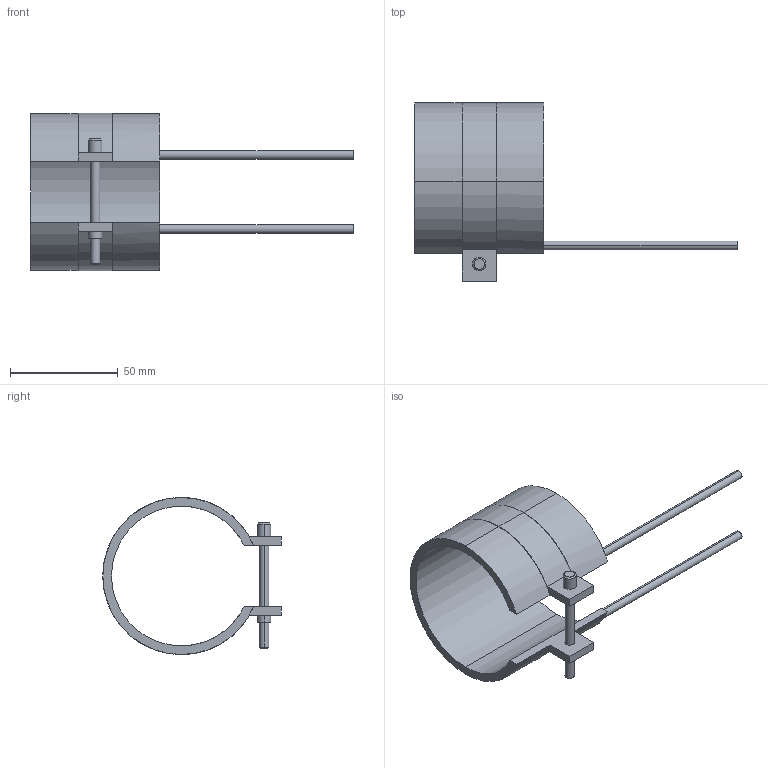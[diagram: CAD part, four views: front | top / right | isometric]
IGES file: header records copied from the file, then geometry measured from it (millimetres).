
Start section: START RECORD GO HERE.
Global section: file name: 14065060.igs; native system: DASSAULT SYSTEMES CATIA V5 R20 - www.3ds.com; preprocessor: CATIA Version 5 Release 20 ; author: Utente; organization: NB04-ASUS; date: 20210403.091828; units: millimetre
Bounding box: 150 x 83.1 x 73.2 mm (x, y, z)
Surface area: 28615.4 mm2 (no closed solid volume)
Topology: 0 solids, 0 shells, 45 faces, 232 edges, 232 vertices
Faces by surface type: revolution 28, plane 17
